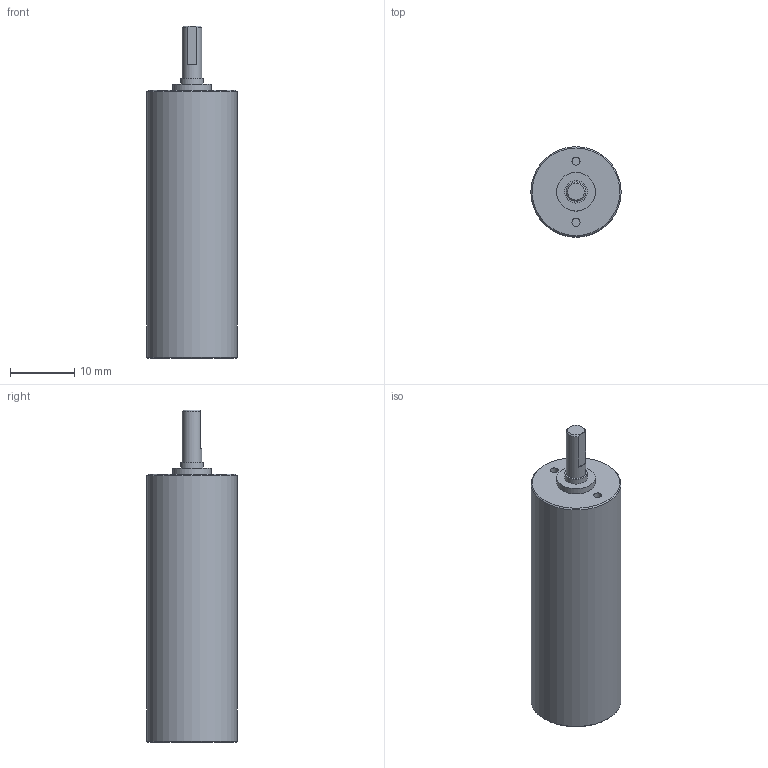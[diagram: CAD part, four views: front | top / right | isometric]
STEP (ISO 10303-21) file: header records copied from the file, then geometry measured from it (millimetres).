
FILE_DESCRIPTION(/* description */ (''),/* implementation_level */ '2;1');
FILE_NAME(/* name */ '14-1_6.stp',/* time_stamp */ '2016-08-24T13:47:15+02:00',/* author */ ('DR. FRITZ FAULHABER GmbH & Co. KG'),/* organization */ ('DR. FRITZ FAULHABER GmbH & Co. KG'),/* preprocessor_version */ 'ST-DEVELOPER v16',/* originating_system */ 'SIEMENS PLM Software NX 10.0',/* authorisation */ '');
FILE_SCHEMA (('AUTOMOTIVE_DESIGN { 1 0 10303 214 3 1 1 1 }'));
Length unit declared in the file: millimetre
Products named in the file (1): H00000259_A
Bounding box: 14 x 14 x 51.5 mm (x, y, z)
Volume: 5434.2 mm3; surface area: 2654.5 mm2
Topology: 1 solids, 1 shells, 22 faces, 38 edges, 25 vertices
Faces by surface type: plane 11, cylinder 8, cone 3
Full cylindrical faces by diameter (mm): 1.25 x2, 3 x1, 3.5 x1, 6 x2, 13 x1, 14 x1
Entity records: 483 total; most frequent: DIRECTION 89, CARTESIAN_POINT 76, ORIENTED_EDGE 50, AXIS2_PLACEMENT_3D 43, EDGE_LOOP 39, FACE_BOUND 32, EDGE_CURVE 25, ADVANCED_FACE 22
